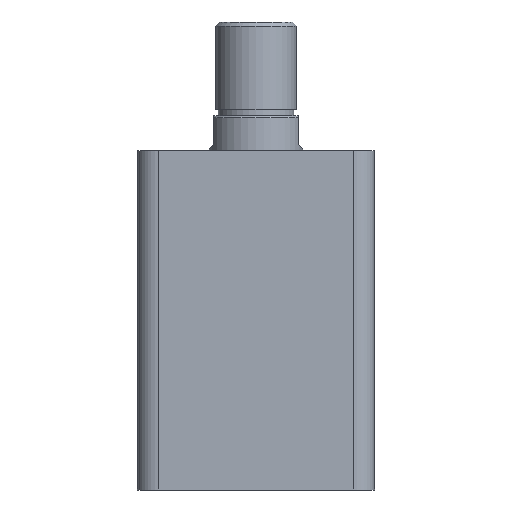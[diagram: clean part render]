
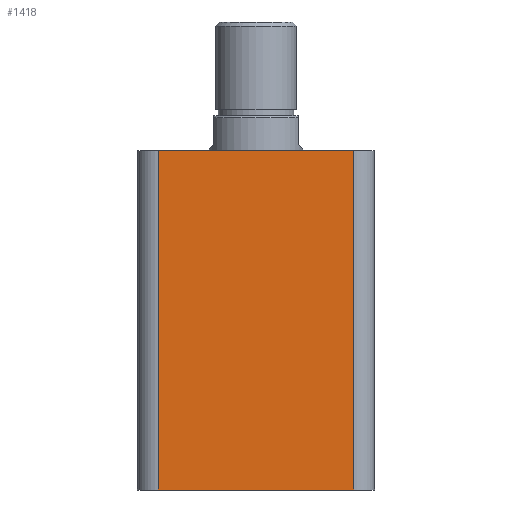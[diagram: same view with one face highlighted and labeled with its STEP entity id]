
A CAD part, front view. The second image highlights one B-rep face of the part: STEP entity #1418.
In plain terms, the highlighted planar face has unit normal (0, -1, 0).
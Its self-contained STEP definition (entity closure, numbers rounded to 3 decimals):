
#30 = EDGE_CURVE ( 'NONE', #2056, #2047, #744, .T. ) ;
#38 = EDGE_CURVE ( 'NONE', #2056, #2057, #755, .T. ) ;
#40 = EDGE_CURVE ( 'NONE', #2054, #2057, #758, .T. ) ;
#53 = EDGE_CURVE ( 'NONE', #2047, #2054, #782, .T. ) ;
#198 = EDGE_LOOP ( 'NONE', ( #1538, #1539, #1540, #1541 ) ) ;
#254 = DIRECTION ( 'NONE',  ( 0., 0., -1. ) ) ;
#265 = CARTESIAN_POINT ( 'NONE',  ( -47., -57., 163. ) ) ;
#297 = DIRECTION ( 'NONE',  ( 0., 0., 1. ) ) ;
#307 = CARTESIAN_POINT ( 'NONE',  ( -57., -57., 163. ) ) ;
#308 = CARTESIAN_POINT ( 'NONE',  ( 47., -57., 163. ) ) ;
#315 = DIRECTION ( 'NONE',  ( 1., 0., 0. ) ) ;
#461 = CARTESIAN_POINT ( 'NONE',  ( -57., -57., 163. ) ) ;
#463 = PLANE ( 'NONE',  #2370 ) ;
#467 = DIRECTION ( 'NONE',  ( 0., 1., 0. ) ) ;
#468 = DIRECTION ( 'NONE',  ( 0., 0., 1. ) ) ;
#744 = LINE ( 'NONE', #265, #750 ) ;
#750 = VECTOR ( 'NONE', #254, 1000. ) ;
#755 = LINE ( 'NONE', #307, #760 ) ;
#758 = LINE ( 'NONE', #308, #764 ) ;
#760 = VECTOR ( 'NONE', #315, 1000. ) ;
#764 = VECTOR ( 'NONE', #297, 1000. ) ;
#782 = LINE ( 'NONE', #1061, #785 ) ;
#785 = VECTOR ( 'NONE', #1064, 1000. ) ;
#880 = FACE_OUTER_BOUND ( 'NONE', #198, .T. ) ;
#1061 = CARTESIAN_POINT ( 'NONE',  ( -57., -57., 0. ) ) ;
#1064 = DIRECTION ( 'NONE',  ( 1., 0., 0. ) ) ;
#1418 = ADVANCED_FACE ( 'NONE', ( #880 ), #463, .F. ) ;
#1538 = ORIENTED_EDGE ( 'NONE', *, *, #53, .T. ) ;
#1539 = ORIENTED_EDGE ( 'NONE', *, *, #40, .T. ) ;
#1540 = ORIENTED_EDGE ( 'NONE', *, *, #38, .F. ) ;
#1541 = ORIENTED_EDGE ( 'NONE', *, *, #30, .T. ) ;
#1788 = CARTESIAN_POINT ( 'NONE',  ( -47., -57., 0. ) ) ;
#1795 = CARTESIAN_POINT ( 'NONE',  ( 47., -57., 0. ) ) ;
#1797 = CARTESIAN_POINT ( 'NONE',  ( -47., -57., 163. ) ) ;
#1798 = CARTESIAN_POINT ( 'NONE',  ( 47., -57., 163. ) ) ;
#2047 = VERTEX_POINT ( 'NONE', #1788 ) ;
#2054 = VERTEX_POINT ( 'NONE', #1795 ) ;
#2056 = VERTEX_POINT ( 'NONE', #1797 ) ;
#2057 = VERTEX_POINT ( 'NONE', #1798 ) ;
#2370 = AXIS2_PLACEMENT_3D ( 'NONE', #461, #467, #468 ) ;
